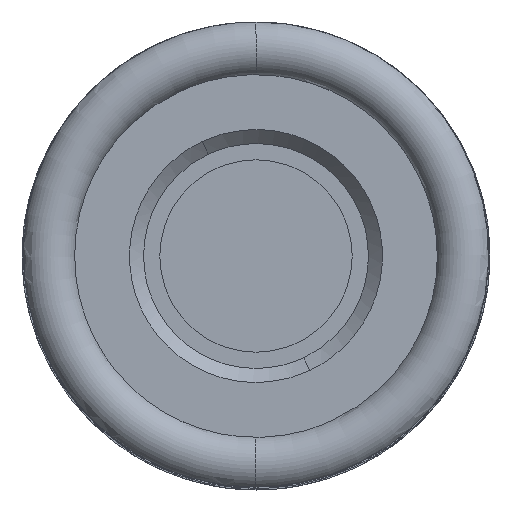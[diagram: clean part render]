
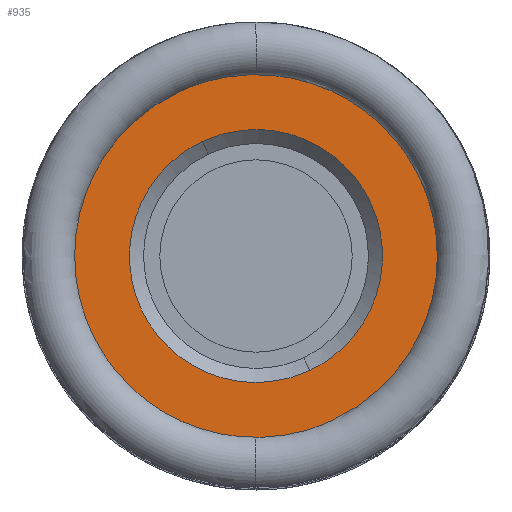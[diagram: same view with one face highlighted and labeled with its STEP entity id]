
A CAD part, left-side view. The second image highlights one B-rep face of the part: STEP entity #935.
In plain terms, the highlighted planar face has unit normal (-1, 0, 0).
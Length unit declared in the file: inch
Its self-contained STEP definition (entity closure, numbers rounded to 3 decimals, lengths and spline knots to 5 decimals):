
#70 = EDGE_CURVE ( 'NONE', #988, #6815, #726, .T. ) ;
#211 = CARTESIAN_POINT ( 'NONE',  ( -0.31175, 0.27337, 0.38465 ) ) ;
#232 = CARTESIAN_POINT ( 'NONE',  ( -0.31175, 0.19143, 0.18121 ) ) ;
#343 = CARTESIAN_POINT ( 'NONE',  ( -0.31175, 0.13644, 0.36819 ) ) ;
#378 = CARTESIAN_POINT ( 'NONE',  ( -0.31175, 0.18599, 0.4135 ) ) ;
#396 = CARTESIAN_POINT ( 'NONE',  ( -0.31175, 0.32254, 0.24916 ) ) ;
#726 = B_SPLINE_CURVE_WITH_KNOTS ( 'NONE', 3,
 ( #780, #1960, #4215, #6331, #1771, #4550, #1904, #4030, #396, #1456, #6180, #926, #3056, #5174, #6149, #856, #3128, #2119 ),
 .UNSPECIFIED., .F., .F.,
 ( 4, 2, 2, 2, 2, 2, 2, 2, 4 ),
 ( 0., 0.125, 0.25, 0.375, 0.5, 0.625, 0.75, 0.875, 1. ),
 .UNSPECIFIED. ) ;
#778 = CARTESIAN_POINT ( 'NONE',  ( -0.31175, 0.15948, 0.32539 ) ) ;
#780 = CARTESIAN_POINT ( 'NONE',  ( -0.31175, 0.20795, 0.21654 ) ) ;
#856 = CARTESIAN_POINT ( 'NONE',  ( -0.31175, 0.30443, 0.36762 ) ) ;
#926 = CARTESIAN_POINT ( 'NONE',  ( -0.31175, 0.33651, 0.30597 ) ) ;
#935 = ADVANCED_FACE ( 'NONE', ( #5364, #5433 ), #4352, .T. ) ;
#937 = B_SPLINE_CURVE_WITH_KNOTS ( 'NONE', 3,
 ( #6304, #4187, #1403, #6267, #4149, #1544, #5121, #5089, #4666, #343, #1437, #3075, #378, #2483, #5618, #6725, #2515, #981 ),
 .UNSPECIFIED., .F., .F.,
 ( 4, 2, 2, 2, 2, 2, 2, 2, 4 ),
 ( 0., 0.125, 0.25, 0.375, 0.5, 0.625, 0.75, 0.875, 1. ),
 .UNSPECIFIED. ) ;
#981 = CARTESIAN_POINT ( 'NONE',  ( -0.31175, 0.30069, 0.41493 ) ) ;
#988 = VERTEX_POINT ( 'NONE', #3791 ) ;
#1205 = CARTESIAN_POINT ( 'NONE',  ( -0.31175, 0.19713, 0.2216 ) ) ;
#1241 = CARTESIAN_POINT ( 'NONE',  ( -0.31175, 0.15669, 0.31399 ) ) ;
#1245 = VERTEX_POINT ( 'NONE', #4199 ) ;
#1274 = CARTESIAN_POINT ( 'NONE',  ( -0.31175, 0.16552, 0.25617 ) ) ;
#1403 = CARTESIAN_POINT ( 'NONE',  ( -0.31175, 0.16241, 0.1984 ) ) ;
#1437 = CARTESIAN_POINT ( 'NONE',  ( -0.31175, 0.14639, 0.38173 ) ) ;
#1456 = CARTESIAN_POINT ( 'NONE',  ( -0.31175, 0.33264, 0.27076 ) ) ;
#1544 = CARTESIAN_POINT ( 'NONE',  ( -0.31175, 0.11897, 0.27014 ) ) ;
#1642 = CARTESIAN_POINT ( 'NONE',  ( -0.31175, 0.36292, 0.24344 ) ) ;
#1666 = CARTESIAN_POINT ( 'NONE',  ( -0.31175, 0.30069, 0.41493 ) ) ;
#1685 = CARTESIAN_POINT ( 'NONE',  ( -0.31175, 0.37418, 0.27525 ) ) ;
#1771 = CARTESIAN_POINT ( 'NONE',  ( -0.31175, 0.26556, 0.20941 ) ) ;
#1792 = CARTESIAN_POINT ( 'NONE',  ( -0.31175, 0.19412, 0.37253 ) ) ;
#1824 = CARTESIAN_POINT ( 'NONE',  ( -0.31175, 0.1574, 0.27858 ) ) ;
#1904 = CARTESIAN_POINT ( 'NONE',  ( -0.31175, 0.298, 0.22362 ) ) ;
#1960 = CARTESIAN_POINT ( 'NONE',  ( -0.31175, 0.21875, 0.21149 ) ) ;
#2119 = CARTESIAN_POINT ( 'NONE',  ( -0.31175, 0.28418, 0.3796 ) ) ;
#2209 = CARTESIAN_POINT ( 'NONE',  ( -0.31175, 0.37316, 0.32601 ) ) ;
#2241 = CARTESIAN_POINT ( 'NONE',  ( -0.31175, 0.35279, 0.37252 ) ) ;
#2295 = ORIENTED_EDGE ( 'NONE', *, *, #6501, .T. ) ;
#2383 = CARTESIAN_POINT ( 'NONE',  ( -0.31175, 0.16958, 0.34698 ) ) ;
#2419 = ORIENTED_EDGE ( 'NONE', *, *, #70, .T. ) ;
#2483 = CARTESIAN_POINT ( 'NONE',  ( -0.31175, 0.21813, 0.42517 ) ) ;
#2515 = CARTESIAN_POINT ( 'NONE',  ( -0.31175, 0.28519, 0.42218 ) ) ;
#2804 = CARTESIAN_POINT ( 'NONE',  ( -0.31175, 0.15562, 0.29018 ) ) ;
#2813 = DIRECTION ( 'NONE',  ( -1., 0., 0. ) ) ;
#2825 = CARTESIAN_POINT ( 'NONE',  ( -0.31175, 0.30069, 0.41493 ) ) ;
#2999 = CARTESIAN_POINT ( 'NONE',  ( -0.31175, 0.30613, 0.18264 ) ) ;
#3031 = EDGE_LOOP ( 'NONE', ( #3548, #2295 ) ) ;
#3056 = CARTESIAN_POINT ( 'NONE',  ( -0.31175, 0.33473, 0.31757 ) ) ;
#3075 = CARTESIAN_POINT ( 'NONE',  ( -0.31175, 0.17162, 0.4048 ) ) ;
#3128 = CARTESIAN_POINT ( 'NONE',  ( -0.31175, 0.295, 0.37455 ) ) ;
#3218 = CARTESIAN_POINT ( 'NONE',  ( -0.31175, 0.36149, 0.35814 ) ) ;
#3411 = EDGE_CURVE ( 'NONE', #6815, #988, #5840, .T. ) ;
#3548 = ORIENTED_EDGE ( 'NONE', *, *, #3826, .T. ) ;
#3791 = CARTESIAN_POINT ( 'NONE',  ( -0.31175, 0.20795, 0.21654 ) ) ;
#3826 = EDGE_CURVE ( 'NONE', #5951, #1245, #3838, .T. ) ;
#3838 = B_SPLINE_CURVE_WITH_KNOTS ( 'NONE', 3,
 ( #2825, #3902, #4849, #2241, #3218, #2209, #4330, #1685, #5341, #5412, #5019, #4457, #2999, #5583, #4529, #4044, #5052, #232 ),
 .UNSPECIFIED., .F., .F.,
 ( 4, 2, 2, 2, 2, 2, 2, 2, 4 ),
 ( 0., 0.125, 0.25, 0.375, 0.5, 0.625, 0.75, 0.875, 1. ),
 .UNSPECIFIED. ) ;
#3869 = ORIENTED_EDGE ( 'NONE', *, *, #3411, .T. ) ;
#3880 = CARTESIAN_POINT ( 'NONE',  ( -0.31175, 0.28418, 0.3796 ) ) ;
#3902 = CARTESIAN_POINT ( 'NONE',  ( -0.31175, 0.31618, 0.40769 ) ) ;
#3949 = CARTESIAN_POINT ( 'NONE',  ( -0.31175, 0.20795, 0.21654 ) ) ;
#3972 = EDGE_LOOP ( 'NONE', ( #3869, #2419 ) ) ;
#4030 = CARTESIAN_POINT ( 'NONE',  ( -0.31175, 0.3156, 0.2397 ) ) ;
#4044 = CARTESIAN_POINT ( 'NONE',  ( -0.31175, 0.22323, 0.16996 ) ) ;
#4149 = CARTESIAN_POINT ( 'NONE',  ( -0.31175, 0.13063, 0.238 ) ) ;
#4187 = CARTESIAN_POINT ( 'NONE',  ( -0.31175, 0.17594, 0.18845 ) ) ;
#4199 = CARTESIAN_POINT ( 'NONE',  ( -0.31175, 0.19143, 0.18121 ) ) ;
#4215 = CARTESIAN_POINT ( 'NONE',  ( -0.31175, 0.23014, 0.2087 ) ) ;
#4330 = CARTESIAN_POINT ( 'NONE',  ( -0.31175, 0.37569, 0.3094 ) ) ;
#4352 = PLANE ( 'NONE',  #5105 ) ;
#4435 = CARTESIAN_POINT ( 'NONE',  ( -0.31175, 0.1877, 0.22853 ) ) ;
#4457 = CARTESIAN_POINT ( 'NONE',  ( -0.31175, 0.32051, 0.19134 ) ) ;
#4504 = CARTESIAN_POINT ( 'NONE',  ( -0.31175, 0.1716, 0.24614 ) ) ;
#4529 = CARTESIAN_POINT ( 'NONE',  ( -0.31175, 0.25739, 0.16844 ) ) ;
#4550 = CARTESIAN_POINT ( 'NONE',  ( -0.31175, 0.28797, 0.21753 ) ) ;
#4666 = CARTESIAN_POINT ( 'NONE',  ( -0.31175, 0.12197, 0.33722 ) ) ;
#4849 = CARTESIAN_POINT ( 'NONE',  ( -0.31175, 0.32972, 0.39774 ) ) ;
#5019 = CARTESIAN_POINT ( 'NONE',  ( -0.31175, 0.34573, 0.21442 ) ) ;
#5031 = CARTESIAN_POINT ( 'NONE',  ( -0.31175, 0.23817, 0.38852 ) ) ;
#5052 = CARTESIAN_POINT ( 'NONE',  ( -0.31175, 0.20694, 0.17396 ) ) ;
#5089 = CARTESIAN_POINT ( 'NONE',  ( -0.31175, 0.11795, 0.3209 ) ) ;
#5105 = AXIS2_PLACEMENT_3D ( 'NONE', #1642, #2813, #5985 ) ;
#5121 = CARTESIAN_POINT ( 'NONE',  ( -0.31175, 0.11643, 0.28675 ) ) ;
#5174 = CARTESIAN_POINT ( 'NONE',  ( -0.31175, 0.3266, 0.33998 ) ) ;
#5341 = CARTESIAN_POINT ( 'NONE',  ( -0.31175, 0.37016, 0.25893 ) ) ;
#5364 = FACE_BOUND ( 'NONE', #3972, .T. ) ;
#5412 = CARTESIAN_POINT ( 'NONE',  ( -0.31175, 0.35569, 0.22796 ) ) ;
#5433 = FACE_OUTER_BOUND ( 'NONE', #3031, .T. ) ;
#5583 = CARTESIAN_POINT ( 'NONE',  ( -0.31175, 0.274, 0.17098 ) ) ;
#5618 = CARTESIAN_POINT ( 'NONE',  ( -0.31175, 0.23473, 0.4277 ) ) ;
#5803 = CARTESIAN_POINT ( 'NONE',  ( -0.31175, 0.28418, 0.3796 ) ) ;
#5840 = B_SPLINE_CURVE_WITH_KNOTS ( 'NONE', 3,
 ( #3880, #211, #6006, #5031, #6072, #6597, #1792, #5978, #2383, #778, #1241, #2804, #1824, #1274, #4504, #4435, #1205, #3949 ),
 .UNSPECIFIED., .F., .F.,
 ( 4, 2, 2, 2, 2, 2, 2, 2, 4 ),
 ( 0., 0.125, 0.25, 0.375, 0.5, 0.625, 0.75, 0.875, 1. ),
 .UNSPECIFIED. ) ;
#5951 = VERTEX_POINT ( 'NONE', #1666 ) ;
#5978 = CARTESIAN_POINT ( 'NONE',  ( -0.31175, 0.17653, 0.35644 ) ) ;
#5985 = DIRECTION ( 'NONE',  ( 0., 1., 0. ) ) ;
#6006 = CARTESIAN_POINT ( 'NONE',  ( -0.31175, 0.26198, 0.38745 ) ) ;
#6072 = CARTESIAN_POINT ( 'NONE',  ( -0.31175, 0.22657, 0.38674 ) ) ;
#6149 = CARTESIAN_POINT ( 'NONE',  ( -0.31175, 0.32053, 0.35001 ) ) ;
#6180 = CARTESIAN_POINT ( 'NONE',  ( -0.31175, 0.33544, 0.28215 ) ) ;
#6267 = CARTESIAN_POINT ( 'NONE',  ( -0.31175, 0.13933, 0.22362 ) ) ;
#6304 = CARTESIAN_POINT ( 'NONE',  ( -0.31175, 0.19143, 0.18121 ) ) ;
#6331 = CARTESIAN_POINT ( 'NONE',  ( -0.31175, 0.25396, 0.20763 ) ) ;
#6501 = EDGE_CURVE ( 'NONE', #1245, #5951, #937, .T. ) ;
#6597 = CARTESIAN_POINT ( 'NONE',  ( -0.31175, 0.20416, 0.37861 ) ) ;
#6725 = CARTESIAN_POINT ( 'NONE',  ( -0.31175, 0.2689, 0.42618 ) ) ;
#6815 = VERTEX_POINT ( 'NONE', #5803 ) ;
